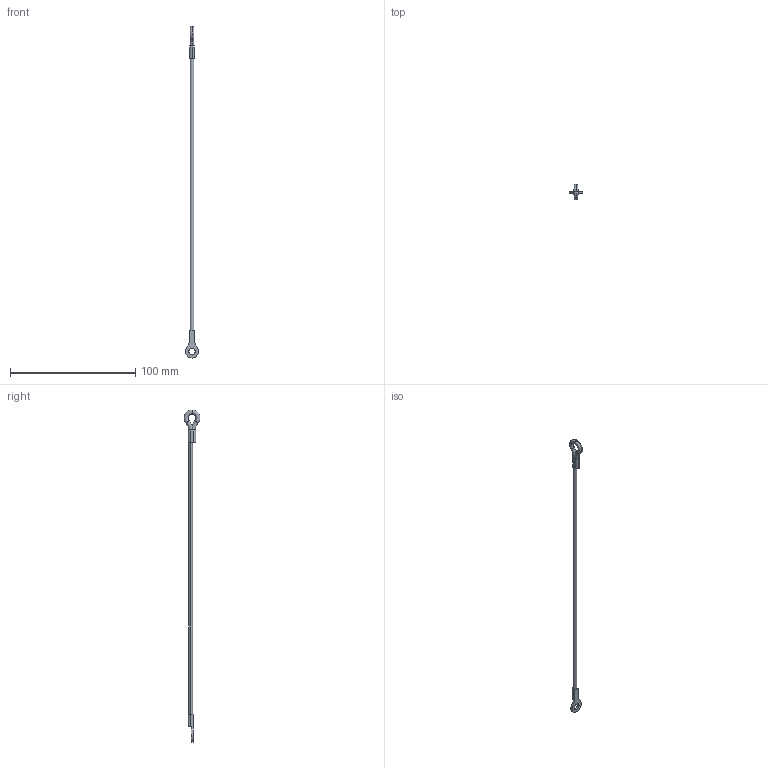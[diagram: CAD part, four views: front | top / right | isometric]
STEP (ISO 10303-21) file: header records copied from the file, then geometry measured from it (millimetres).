
FILE_DESCRIPTION (( 'STEP AP203' ), '1' );
FILE_NAME ('LA1075.I06-254B1.step', '2026-03-23T16:44:50', ( '' ), ( '' ), 'SwSTEP 2.0', 'SolidWorks 2019', '' );
FILE_SCHEMA (( 'CONFIG_CONTROL_DESIGN' ));
Length unit declared in the file: millimetre
Products named in the file (1): LA1075.I06-254B1
Bounding box: 10.41 x 12.75 x 265.6 mm (x, y, z)
Volume: 2483.4 mm3; surface area: 3093.8 mm2
Topology: 1 solids, 1 shells, 30 faces, 72 edges, 45 vertices
Faces by surface type: plane 12, cylinder 10, torus 8
Entity records: 993 total; most frequent: CARTESIAN_POINT 178, DIRECTION 170, ORIENTED_EDGE 144, EDGE_CURVE 72, AXIS2_PLACEMENT_3D 69, VERTEX_POINT 45, CIRCLE 38, EDGE_LOOP 35
